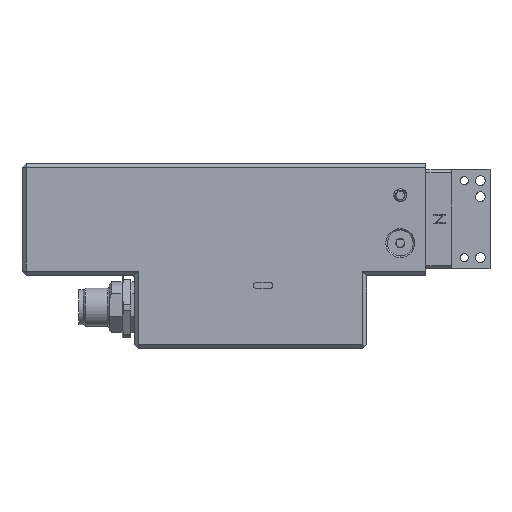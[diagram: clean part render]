
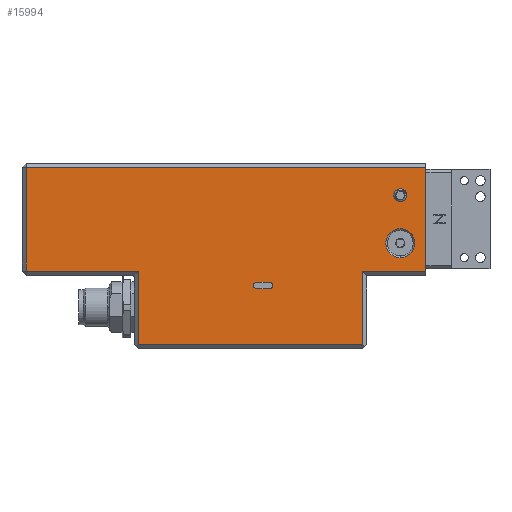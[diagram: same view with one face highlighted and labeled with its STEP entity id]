
A CAD part, left-side view. The second image highlights one B-rep face of the part: STEP entity #15994.
In plain terms, the highlighted planar face has unit normal (-1, 0, 0).
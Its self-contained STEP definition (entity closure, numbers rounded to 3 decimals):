
#771 = CARTESIAN_POINT ( 'NONE',  ( -23., 72.8, -19.7 ) ) ;
#1012 = VERTEX_POINT ( 'NONE', #57497 ) ;
#1087 = ORIENTED_EDGE ( 'NONE', *, *, #75799, .T. ) ;
#1295 = DIRECTION ( 'NONE',  ( 1., 0., 0. ) ) ;
#3099 = VERTEX_POINT ( 'NONE', #5684 ) ;
#3179 = LINE ( 'NONE', #72678, #51353 ) ;
#4385 = CIRCLE ( 'NONE', #15707, 4.5 ) ;
#4820 = LINE ( 'NONE', #41544, #36280 ) ;
#5471 = LINE ( 'NONE', #53232, #22234 ) ;
#5684 = CARTESIAN_POINT ( 'NONE',  ( -23., 72.8, -21.7 ) ) ;
#5981 = FACE_BOUND ( 'NONE', #45390, .T. ) ;
#6787 = VECTOR ( 'NONE', #45293, 1000. ) ;
#6923 = LINE ( 'NONE', #61792, #71894 ) ;
#8064 = EDGE_CURVE ( 'NONE', #80055, #28864, #56918, .T. ) ;
#10021 = ORIENTED_EDGE ( 'NONE', *, *, #8064, .T. ) ;
#10048 = CIRCLE ( 'NONE', #34169, 2. ) ;
#10217 = DIRECTION ( 'NONE',  ( 0., 1., 0. ) ) ;
#10849 = VERTEX_POINT ( 'NONE', #49391 ) ;
#11071 = VERTEX_POINT ( 'NONE', #33443 ) ;
#11891 = EDGE_CURVE ( 'NONE', #61947, #1012, #79236, .T. ) ;
#13006 = EDGE_CURVE ( 'NONE', #15659, #10849, #27915, .T. ) ;
#13123 = DIRECTION ( 'NONE',  ( -1., 0., 0. ) ) ;
#13457 = AXIS2_PLACEMENT_3D ( 'NONE', #38991, #1295, #45295 ) ;
#13803 = DIRECTION ( 'NONE',  ( -1., 0., 0. ) ) ;
#13971 = EDGE_CURVE ( 'NONE', #61565, #67483, #36634, .T. ) ;
#14297 = ORIENTED_EDGE ( 'NONE', *, *, #66231, .F. ) ;
#14650 = CARTESIAN_POINT ( 'NONE',  ( -23., 146., -16.2 ) ) ;
#14721 = CARTESIAN_POINT ( 'NONE',  ( -23., 39.8, -17.5 ) ) ;
#14860 = DIRECTION ( 'NONE',  ( 0., 1., 0. ) ) ;
#15343 = CARTESIAN_POINT ( 'NONE',  ( -23., 144.7, 16.2 ) ) ;
#15659 = VERTEX_POINT ( 'NONE', #19849 ) ;
#15684 = ORIENTED_EDGE ( 'NONE', *, *, #51169, .F. ) ;
#15707 = AXIS2_PLACEMENT_3D ( 'NONE', #74797, #37072, #81135 ) ;
#15994 = ADVANCED_FACE ( 'NONE', ( #56114, #54138, #5981, #37439 ), #46228, .F. ) ;
#16627 = EDGE_CURVE ( 'NONE', #36454, #47707, #10048, .T. ) ;
#16675 = DIRECTION ( 'NONE',  ( 1., 0., 0. ) ) ;
#18077 = DIRECTION ( 'NONE',  ( 0., 0., -1. ) ) ;
#18668 = LINE ( 'NONE', #69762, #41289 ) ;
#19849 = CARTESIAN_POINT ( 'NONE',  ( -23., 39.8, -39.2 ) ) ;
#20070 = CARTESIAN_POINT ( 'NONE',  ( -23., 28., 7.5 ) ) ;
#20219 = EDGE_CURVE ( 'NONE', #11071, #64212, #18668, .T. ) ;
#22234 = VECTOR ( 'NONE', #59580, 1000. ) ;
#23660 = LINE ( 'NONE', #49914, #36388 ) ;
#26183 = CARTESIAN_POINT ( 'NONE',  ( -23., 28., 5.5 ) ) ;
#26367 = DIRECTION ( 'NONE',  ( 0., 0., 1. ) ) ;
#26509 = AXIS2_PLACEMENT_3D ( 'NONE', #20070, #64072, #26367 ) ;
#27559 = DIRECTION ( 'NONE',  ( 1., 0., 0. ) ) ;
#27915 = LINE ( 'NONE', #14721, #40675 ) ;
#28864 = VERTEX_POINT ( 'NONE', #32295 ) ;
#30770 = LINE ( 'NONE', #70982, #64291 ) ;
#31539 = EDGE_CURVE ( 'NONE', #64212, #80055, #30770, .T. ) ;
#32266 = EDGE_CURVE ( 'NONE', #81165, #15659, #3179, .T. ) ;
#32295 = CARTESIAN_POINT ( 'NONE',  ( -23., 144.7, -16.2 ) ) ;
#33443 = CARTESIAN_POINT ( 'NONE',  ( -23., 20., -16.2 ) ) ;
#34169 = AXIS2_PLACEMENT_3D ( 'NONE', #50739, #13123, #57099 ) ;
#34519 = EDGE_CURVE ( 'NONE', #3099, #64809, #58010, .T. ) ;
#36280 = VECTOR ( 'NONE', #10217, 1000. ) ;
#36388 = VECTOR ( 'NONE', #43891, 1000. ) ;
#36454 = VERTEX_POINT ( 'NONE', #26183 ) ;
#36634 = CIRCLE ( 'NONE', #69997, 1. ) ;
#37072 = DIRECTION ( 'NONE',  ( -1., 0., 0. ) ) ;
#37439 = FACE_OUTER_BOUND ( 'NONE', #52136, .T. ) ;
#37614 = EDGE_CURVE ( 'NONE', #10849, #11071, #58222, .T. ) ;
#37643 = ORIENTED_EDGE ( 'NONE', *, *, #11891, .F. ) ;
#38168 = ORIENTED_EDGE ( 'NONE', *, *, #37614, .T. ) ;
#38223 = ORIENTED_EDGE ( 'NONE', *, *, #32266, .T. ) ;
#38991 = CARTESIAN_POINT ( 'NONE',  ( -23., 72.8, -20.7 ) ) ;
#39517 = VECTOR ( 'NONE', #64987, 1000. ) ;
#39938 = AXIS2_PLACEMENT_3D ( 'NONE', #65285, #27559, #71609 ) ;
#40346 = EDGE_CURVE ( 'NONE', #67483, #3099, #4820, .T. ) ;
#40675 = VECTOR ( 'NONE', #71375, 1000. ) ;
#41279 = DIRECTION ( 'NONE',  ( 0., -1., 0. ) ) ;
#41289 = VECTOR ( 'NONE', #50706, 1000. ) ;
#41544 = CARTESIAN_POINT ( 'NONE',  ( -23., 73.8, -21.7 ) ) ;
#41572 = ORIENTED_EDGE ( 'NONE', *, *, #13006, .T. ) ;
#43891 = DIRECTION ( 'NONE',  ( 0., -1., 0. ) ) ;
#45119 = EDGE_CURVE ( 'NONE', #28864, #67346, #5471, .T. ) ;
#45293 = DIRECTION ( 'NONE',  ( 0., 0., -1. ) ) ;
#45295 = DIRECTION ( 'NONE',  ( 0., 0., -1. ) ) ;
#45390 = EDGE_LOOP ( 'NONE', ( #14297, #57159 ) ) ;
#46228 = PLANE ( 'NONE',  #39938 ) ;
#46831 = CARTESIAN_POINT ( 'NONE',  ( -23., 20., 16.2 ) ) ;
#47707 = VERTEX_POINT ( 'NONE', #63495 ) ;
#49391 = CARTESIAN_POINT ( 'NONE',  ( -23., 39.8, -16.2 ) ) ;
#49914 = CARTESIAN_POINT ( 'NONE',  ( -23., 73.8, -19.7 ) ) ;
#50706 = DIRECTION ( 'NONE',  ( 0., 0., 1. ) ) ;
#50739 = CARTESIAN_POINT ( 'NONE',  ( -23., 28., 7.5 ) ) ;
#51169 = EDGE_CURVE ( 'NONE', #1012, #61947, #4385, .T. ) ;
#51353 = VECTOR ( 'NONE', #41279, 1000. ) ;
#51429 = CARTESIAN_POINT ( 'NONE',  ( -23., 28., -7.5 ) ) ;
#51454 = ORIENTED_EDGE ( 'NONE', *, *, #31539, .T. ) ;
#52136 = EDGE_LOOP ( 'NONE', ( #65850, #51454, #10021, #75059, #1087, #38223, #41572, #38168 ) ) ;
#52375 = EDGE_LOOP ( 'NONE', ( #65833, #57275, #75240, #79285 ) ) ;
#53232 = CARTESIAN_POINT ( 'NONE',  ( -23., 146., -16.2 ) ) ;
#53550 = CARTESIAN_POINT ( 'NONE',  ( -23., 109.7, -39.2 ) ) ;
#54138 = FACE_BOUND ( 'NONE', #52375, .T. ) ;
#54284 = CARTESIAN_POINT ( 'NONE',  ( -23., 68.8, -20.7 ) ) ;
#54653 = CARTESIAN_POINT ( 'NONE',  ( -23., 68.8, -21.7 ) ) ;
#56114 = FACE_BOUND ( 'NONE', #71246, .T. ) ;
#56423 = CARTESIAN_POINT ( 'NONE',  ( -23., 68.8, -19.7 ) ) ;
#56918 = LINE ( 'NONE', #70383, #6787 ) ;
#57099 = DIRECTION ( 'NONE',  ( 0., 0., 1. ) ) ;
#57159 = ORIENTED_EDGE ( 'NONE', *, *, #16627, .F. ) ;
#57275 = ORIENTED_EDGE ( 'NONE', *, *, #34519, .T. ) ;
#57497 = CARTESIAN_POINT ( 'NONE',  ( -23., 28., -3. ) ) ;
#57731 = CARTESIAN_POINT ( 'NONE',  ( -23., 28., -12. ) ) ;
#57776 = DIRECTION ( 'NONE',  ( 0., 0., 1. ) ) ;
#58010 = CIRCLE ( 'NONE', #13457, 1. ) ;
#58222 = LINE ( 'NONE', #14650, #39517 ) ;
#59580 = DIRECTION ( 'NONE',  ( 0., -1., 0. ) ) ;
#60650 = DIRECTION ( 'NONE',  ( 0., 0., -1. ) ) ;
#61565 = VERTEX_POINT ( 'NONE', #56423 ) ;
#61792 = CARTESIAN_POINT ( 'NONE',  ( -23., 109.7, -40.5 ) ) ;
#61947 = VERTEX_POINT ( 'NONE', #57731 ) ;
#63495 = CARTESIAN_POINT ( 'NONE',  ( -23., 28., 9.5 ) ) ;
#64072 = DIRECTION ( 'NONE',  ( -1., 0., 0. ) ) ;
#64212 = VERTEX_POINT ( 'NONE', #46831 ) ;
#64291 = VECTOR ( 'NONE', #14860, 1000. ) ;
#64809 = VERTEX_POINT ( 'NONE', #771 ) ;
#64987 = DIRECTION ( 'NONE',  ( 0., -1., 0. ) ) ;
#65285 = CARTESIAN_POINT ( 'NONE',  ( -23., 146., 17.5 ) ) ;
#65833 = ORIENTED_EDGE ( 'NONE', *, *, #40346, .T. ) ;
#65850 = ORIENTED_EDGE ( 'NONE', *, *, #20219, .T. ) ;
#66231 = EDGE_CURVE ( 'NONE', #47707, #36454, #70490, .T. ) ;
#67346 = VERTEX_POINT ( 'NONE', #78436 ) ;
#67483 = VERTEX_POINT ( 'NONE', #54653 ) ;
#69351 = AXIS2_PLACEMENT_3D ( 'NONE', #51429, #13803, #57776 ) ;
#69762 = CARTESIAN_POINT ( 'NONE',  ( -23., 20., 17.5 ) ) ;
#69997 = AXIS2_PLACEMENT_3D ( 'NONE', #54284, #16675, #60650 ) ;
#70383 = CARTESIAN_POINT ( 'NONE',  ( -23., 144.7, 17.5 ) ) ;
#70490 = CIRCLE ( 'NONE', #26509, 2. ) ;
#70982 = CARTESIAN_POINT ( 'NONE',  ( -23., 146., 16.2 ) ) ;
#71246 = EDGE_LOOP ( 'NONE', ( #15684, #37643 ) ) ;
#71375 = DIRECTION ( 'NONE',  ( 0., 0., 1. ) ) ;
#71609 = DIRECTION ( 'NONE',  ( 0., 0., -1. ) ) ;
#71894 = VECTOR ( 'NONE', #18077, 1000. ) ;
#72678 = CARTESIAN_POINT ( 'NONE',  ( -23., 146., -39.2 ) ) ;
#74797 = CARTESIAN_POINT ( 'NONE',  ( -23., 28., -7.5 ) ) ;
#75059 = ORIENTED_EDGE ( 'NONE', *, *, #45119, .T. ) ;
#75240 = ORIENTED_EDGE ( 'NONE', *, *, #75890, .T. ) ;
#75799 = EDGE_CURVE ( 'NONE', #67346, #81165, #6923, .T. ) ;
#75890 = EDGE_CURVE ( 'NONE', #64809, #61565, #23660, .T. ) ;
#78436 = CARTESIAN_POINT ( 'NONE',  ( -23., 109.7, -16.2 ) ) ;
#79236 = CIRCLE ( 'NONE', #69351, 4.5 ) ;
#79285 = ORIENTED_EDGE ( 'NONE', *, *, #13971, .T. ) ;
#80055 = VERTEX_POINT ( 'NONE', #15343 ) ;
#81135 = DIRECTION ( 'NONE',  ( 0., 0., 1. ) ) ;
#81165 = VERTEX_POINT ( 'NONE', #53550 ) ;
